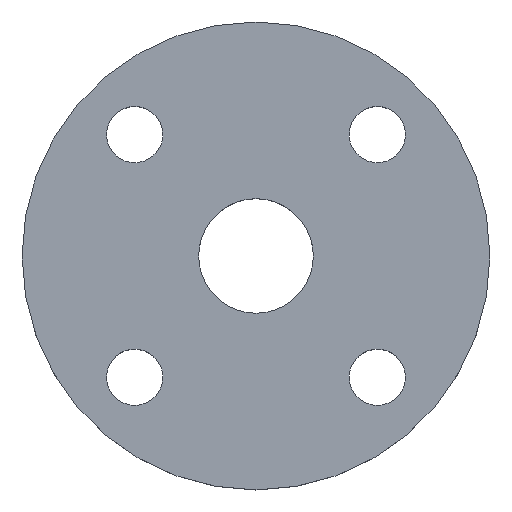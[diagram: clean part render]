
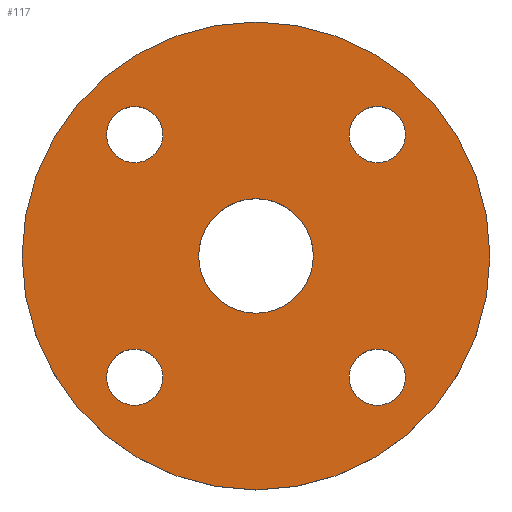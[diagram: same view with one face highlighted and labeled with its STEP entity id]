
A CAD part, top view. The second image highlights one B-rep face of the part: STEP entity #117.
In plain terms, the highlighted planar face has unit normal (0, 0, 1).
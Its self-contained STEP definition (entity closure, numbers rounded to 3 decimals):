
#4 = AXIS2_PLACEMENT_3D ( 'NONE', #537, #538, #539 ) ;
#6 = CIRCLE ( 'NONE', #8, 9. ) ;
#8 = AXIS2_PLACEMENT_3D ( 'NONE', #551, #552, #553 ) ;
#13 = CARTESIAN_POINT ( 'NONE',  ( -47.891, -38.891, 0. ) ) ;
#36 = EDGE_CURVE ( 'NONE', #444, #298, #283, .T. ) ;
#49 = EDGE_CURVE ( 'NONE', #353, #300, #125, .T. ) ;
#54 = AXIS2_PLACEMENT_3D ( 'NONE', #67, #64, #62 ) ;
#55 = AXIS2_PLACEMENT_3D ( 'NONE', #70, #69, #249 ) ;
#56 = CIRCLE ( 'NONE', #55, 18.376 ) ;
#58 = CIRCLE ( 'NONE', #54, 9. ) ;
#62 = DIRECTION ( 'NONE',  ( -1., 0., 0. ) ) ;
#64 = DIRECTION ( 'NONE',  ( 0., 0., -1. ) ) ;
#67 = CARTESIAN_POINT ( 'NONE',  ( 38.891, -38.891, 0. ) ) ;
#68 = AXIS2_PLACEMENT_3D ( 'NONE', #238, #239, #240 ) ;
#69 = DIRECTION ( 'NONE',  ( 0., 0., 1. ) ) ;
#70 = CARTESIAN_POINT ( 'NONE',  ( 0., 0., 0. ) ) ;
#78 = CIRCLE ( 'NONE', #68, 9. ) ;
#84 = EDGE_CURVE ( 'NONE', #435, #304, #105, .T. ) ;
#85 = EDGE_CURVE ( 'NONE', #437, #440, #98, .T. ) ;
#87 = EDGE_CURVE ( 'NONE', #368, #462, #88, .T. ) ;
#88 = CIRCLE ( 'NONE', #90, 9. ) ;
#89 = AXIS2_PLACEMENT_3D ( 'NONE', #575, #576, #577 ) ;
#90 = AXIS2_PLACEMENT_3D ( 'NONE', #514, #515, #516 ) ;
#93 = CARTESIAN_POINT ( 'NONE',  ( 0., 0., 0. ) ) ;
#96 = AXIS2_PLACEMENT_3D ( 'NONE', #510, #511, #513 ) ;
#98 = CIRCLE ( 'NONE', #96, 9. ) ;
#99 = AXIS2_PLACEMENT_3D ( 'NONE', #507, #508, #509 ) ;
#105 = CIRCLE ( 'NONE', #99, 18.376 ) ;
#117 = ADVANCED_FACE ( 'NONE', ( #528, #529, #531, #532, #533, #534 ), #535, .T. ) ;
#124 = AXIS2_PLACEMENT_3D ( 'NONE', #492, #493, #494 ) ;
#125 = CIRCLE ( 'NONE', #124, 75. ) ;
#141 = EDGE_CURVE ( 'NONE', #462, #368, #6, .T. ) ;
#142 = DIRECTION ( 'NONE',  ( 0., 0., 1. ) ) ;
#143 = DIRECTION ( 'NONE',  ( 1., 0., 0. ) ) ;
#152 = CARTESIAN_POINT ( 'NONE',  ( 47.891, -38.891, 0. ) ) ;
#192 = CIRCLE ( 'NONE', #195, 75. ) ;
#195 = AXIS2_PLACEMENT_3D ( 'NONE', #93, #142, #143 ) ;
#197 = CARTESIAN_POINT ( 'NONE',  ( 18.376, 0., 0. ) ) ;
#199 = CARTESIAN_POINT ( 'NONE',  ( -29.891, 38.891, 0. ) ) ;
#202 = CARTESIAN_POINT ( 'NONE',  ( -47.891, 38.891, 0. ) ) ;
#216 = CIRCLE ( 'NONE', #89, 9. ) ;
#219 = CARTESIAN_POINT ( 'NONE',  ( 29.891, 38.891, 0. ) ) ;
#236 = EDGE_CURVE ( 'NONE', #440, #437, #216, .T. ) ;
#237 = CARTESIAN_POINT ( 'NONE',  ( -29.891, -38.891, 0. ) ) ;
#238 = CARTESIAN_POINT ( 'NONE',  ( 38.891, -38.891, 0. ) ) ;
#239 = DIRECTION ( 'NONE',  ( 0., 0., -1. ) ) ;
#240 = DIRECTION ( 'NONE',  ( -1., 0., 0. ) ) ;
#249 = DIRECTION ( 'NONE',  ( 1., 0., 0. ) ) ;
#269 = CIRCLE ( 'NONE', #280, 9. ) ;
#280 = AXIS2_PLACEMENT_3D ( 'NONE', #619, #620, #621 ) ;
#281 = AXIS2_PLACEMENT_3D ( 'NONE', #484, #486, #488 ) ;
#283 = CIRCLE ( 'NONE', #281, 9. ) ;
#291 = EDGE_LOOP ( 'NONE', ( #357, #358 ) ) ;
#293 = VERTEX_POINT ( 'NONE', #610 ) ;
#294 = EDGE_LOOP ( 'NONE', ( #359, #360 ) ) ;
#298 = VERTEX_POINT ( 'NONE', #612 ) ;
#300 = VERTEX_POINT ( 'NONE', #613 ) ;
#303 = EDGE_CURVE ( 'NONE', #298, #444, #269, .T. ) ;
#304 = VERTEX_POINT ( 'NONE', #622 ) ;
#330 = EDGE_LOOP ( 'NONE', ( #365, #366 ) ) ;
#353 = VERTEX_POINT ( 'NONE', #637 ) ;
#357 = ORIENTED_EDGE ( 'NONE', *, *, #525, .T. ) ;
#358 = ORIENTED_EDGE ( 'NONE', *, *, #472, .T. ) ;
#359 = ORIENTED_EDGE ( 'NONE', *, *, #141, .T. ) ;
#360 = ORIENTED_EDGE ( 'NONE', *, *, #87, .T. ) ;
#363 = ORIENTED_EDGE ( 'NONE', *, *, #85, .T. ) ;
#364 = ORIENTED_EDGE ( 'NONE', *, *, #236, .T. ) ;
#365 = ORIENTED_EDGE ( 'NONE', *, *, #303, .T. ) ;
#366 = ORIENTED_EDGE ( 'NONE', *, *, #36, .T. ) ;
#367 = ORIENTED_EDGE ( 'NONE', *, *, #84, .F. ) ;
#368 = VERTEX_POINT ( 'NONE', #13 ) ;
#369 = ORIENTED_EDGE ( 'NONE', *, *, #522, .F. ) ;
#371 = ORIENTED_EDGE ( 'NONE', *, *, #374, .T. ) ;
#372 = ORIENTED_EDGE ( 'NONE', *, *, #49, .T. ) ;
#374 = EDGE_CURVE ( 'NONE', #300, #353, #192, .T. ) ;
#380 = EDGE_LOOP ( 'NONE', ( #367, #369 ) ) ;
#382 = VERTEX_POINT ( 'NONE', #152 ) ;
#430 = EDGE_LOOP ( 'NONE', ( #363, #364 ) ) ;
#435 = VERTEX_POINT ( 'NONE', #197 ) ;
#437 = VERTEX_POINT ( 'NONE', #199 ) ;
#440 = VERTEX_POINT ( 'NONE', #202 ) ;
#444 = VERTEX_POINT ( 'NONE', #219 ) ;
#445 = EDGE_LOOP ( 'NONE', ( #371, #372 ) ) ;
#462 = VERTEX_POINT ( 'NONE', #237 ) ;
#472 = EDGE_CURVE ( 'NONE', #293, #382, #78, .T. ) ;
#484 = CARTESIAN_POINT ( 'NONE',  ( 38.891, 38.891, 0. ) ) ;
#486 = DIRECTION ( 'NONE',  ( 0., 0., -1. ) ) ;
#488 = DIRECTION ( 'NONE',  ( -1., 0., 0. ) ) ;
#492 = CARTESIAN_POINT ( 'NONE',  ( 0., 0., 0. ) ) ;
#493 = DIRECTION ( 'NONE',  ( 0., 0., 1. ) ) ;
#494 = DIRECTION ( 'NONE',  ( 1., 0., 0. ) ) ;
#507 = CARTESIAN_POINT ( 'NONE',  ( 0., 0., 0. ) ) ;
#508 = DIRECTION ( 'NONE',  ( 0., 0., 1. ) ) ;
#509 = DIRECTION ( 'NONE',  ( 1., 0., 0. ) ) ;
#510 = CARTESIAN_POINT ( 'NONE',  ( -38.891, 38.891, 0. ) ) ;
#511 = DIRECTION ( 'NONE',  ( 0., 0., -1. ) ) ;
#513 = DIRECTION ( 'NONE',  ( -1., 0., 0. ) ) ;
#514 = CARTESIAN_POINT ( 'NONE',  ( -38.891, -38.891, 0. ) ) ;
#515 = DIRECTION ( 'NONE',  ( 0., 0., -1. ) ) ;
#516 = DIRECTION ( 'NONE',  ( -1., 0., 0. ) ) ;
#522 = EDGE_CURVE ( 'NONE', #304, #435, #56, .T. ) ;
#525 = EDGE_CURVE ( 'NONE', #382, #293, #58, .T. ) ;
#528 = FACE_BOUND ( 'NONE', #291, .T. ) ;
#529 = FACE_BOUND ( 'NONE', #294, .T. ) ;
#531 = FACE_BOUND ( 'NONE', #430, .T. ) ;
#532 = FACE_BOUND ( 'NONE', #330, .T. ) ;
#533 = FACE_BOUND ( 'NONE', #380, .T. ) ;
#534 = FACE_OUTER_BOUND ( 'NONE', #445, .T. ) ;
#535 = PLANE ( 'NONE',  #4 ) ;
#537 = CARTESIAN_POINT ( 'NONE',  ( 0., 0., 0. ) ) ;
#538 = DIRECTION ( 'NONE',  ( 0., 0., 1. ) ) ;
#539 = DIRECTION ( 'NONE',  ( 1., 0., 0. ) ) ;
#551 = CARTESIAN_POINT ( 'NONE',  ( -38.891, -38.891, 0. ) ) ;
#552 = DIRECTION ( 'NONE',  ( 0., 0., -1. ) ) ;
#553 = DIRECTION ( 'NONE',  ( -1., 0., 0. ) ) ;
#575 = CARTESIAN_POINT ( 'NONE',  ( -38.891, 38.891, 0. ) ) ;
#576 = DIRECTION ( 'NONE',  ( 0., 0., -1. ) ) ;
#577 = DIRECTION ( 'NONE',  ( -1., 0., 0. ) ) ;
#610 = CARTESIAN_POINT ( 'NONE',  ( 29.891, -38.891, 0. ) ) ;
#612 = CARTESIAN_POINT ( 'NONE',  ( 47.891, 38.891, 0. ) ) ;
#613 = CARTESIAN_POINT ( 'NONE',  ( 75., 0., 0. ) ) ;
#619 = CARTESIAN_POINT ( 'NONE',  ( 38.891, 38.891, 0. ) ) ;
#620 = DIRECTION ( 'NONE',  ( 0., 0., -1. ) ) ;
#621 = DIRECTION ( 'NONE',  ( -1., 0., 0. ) ) ;
#622 = CARTESIAN_POINT ( 'NONE',  ( -18.376, 0., 0. ) ) ;
#637 = CARTESIAN_POINT ( 'NONE',  ( -75., 0., 0. ) ) ;
